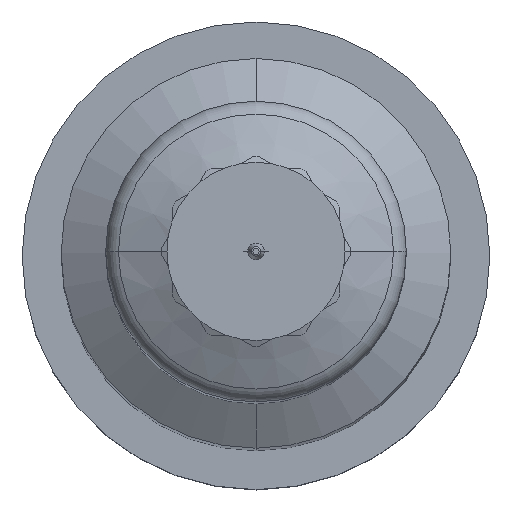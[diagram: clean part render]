
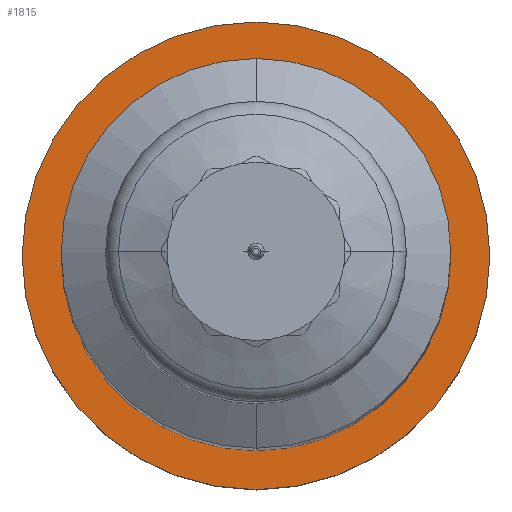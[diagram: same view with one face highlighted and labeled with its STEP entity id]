
A CAD part, top view. The second image highlights one B-rep face of the part: STEP entity #1815.
In plain terms, the highlighted planar face has unit normal (0, 0, 1).
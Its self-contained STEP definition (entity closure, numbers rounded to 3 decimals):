
#141 = CARTESIAN_POINT ( 'NONE',  ( 0., 0., 15. ) ) ;
#302 = PLANE ( 'NONE',  #18536 ) ;
#400 = DIRECTION ( 'NONE',  ( 0., 0., 1. ) ) ;
#1815 = ADVANCED_FACE ( 'NONE', ( #17081, #12040 ), #302, .T. ) ;
#4112 = VERTEX_POINT ( 'NONE', #16536 ) ;
#4760 = DIRECTION ( 'NONE',  ( 0., 0., 1. ) ) ;
#5564 = ORIENTED_EDGE ( 'NONE', *, *, #22210, .F. ) ;
#5617 = VERTEX_POINT ( 'NONE', #26948 ) ;
#6217 = AXIS2_PLACEMENT_3D ( 'NONE', #11236, #4760, #6894 ) ;
#6894 = DIRECTION ( 'NONE',  ( -1., 0., 0. ) ) ;
#7031 = DIRECTION ( 'NONE',  ( 1., 0., 0. ) ) ;
#7111 = DIRECTION ( 'NONE',  ( 0., 0., -1. ) ) ;
#7515 = EDGE_CURVE ( 'NONE', #4112, #5617, #11709, .T. ) ;
#8265 = CIRCLE ( 'NONE', #23587, 21. ) ;
#8787 = CARTESIAN_POINT ( 'NONE',  ( 0., -17.5, 15. ) ) ;
#9478 = CARTESIAN_POINT ( 'NONE',  ( 0., 0., 15. ) ) ;
#9501 = AXIS2_PLACEMENT_3D ( 'NONE', #141, #10997, #15221 ) ;
#10117 = ORIENTED_EDGE ( 'NONE', *, *, #27983, .F. ) ;
#10171 = EDGE_CURVE ( 'NONE', #21440, #15103, #21822, .T. ) ;
#10997 = DIRECTION ( 'NONE',  ( 0., 0., 1. ) ) ;
#11236 = CARTESIAN_POINT ( 'NONE',  ( 0., 0., 15. ) ) ;
#11468 = ORIENTED_EDGE ( 'NONE', *, *, #7515, .F. ) ;
#11582 = EDGE_LOOP ( 'NONE', ( #5564, #11468 ) ) ;
#11709 = CIRCLE ( 'NONE', #13688, 21. ) ;
#12040 = FACE_OUTER_BOUND ( 'NONE', #11582, .T. ) ;
#13688 = AXIS2_PLACEMENT_3D ( 'NONE', #15646, #18041, #16013 ) ;
#15103 = VERTEX_POINT ( 'NONE', #8787 ) ;
#15221 = DIRECTION ( 'NONE',  ( -1., 0., 0. ) ) ;
#15410 = CARTESIAN_POINT ( 'NONE',  ( 0., 17.5, 15. ) ) ;
#15646 = CARTESIAN_POINT ( 'NONE',  ( 0., 0., 15. ) ) ;
#16013 = DIRECTION ( 'NONE',  ( 1., 0., 0. ) ) ;
#16536 = CARTESIAN_POINT ( 'NONE',  ( -21., 0., 15. ) ) ;
#17081 = FACE_BOUND ( 'NONE', #18574, .T. ) ;
#17865 = DIRECTION ( 'NONE',  ( -1., 0., 0. ) ) ;
#18041 = DIRECTION ( 'NONE',  ( 0., 0., -1. ) ) ;
#18145 = ORIENTED_EDGE ( 'NONE', *, *, #10171, .F. ) ;
#18536 = AXIS2_PLACEMENT_3D ( 'NONE', #26235, #400, #17865 ) ;
#18574 = EDGE_LOOP ( 'NONE', ( #18145, #10117 ) ) ;
#20965 = CIRCLE ( 'NONE', #9501, 17.5 ) ;
#21440 = VERTEX_POINT ( 'NONE', #15410 ) ;
#21822 = CIRCLE ( 'NONE', #6217, 17.5 ) ;
#22210 = EDGE_CURVE ( 'NONE', #5617, #4112, #8265, .T. ) ;
#23587 = AXIS2_PLACEMENT_3D ( 'NONE', #9478, #7111, #7031 ) ;
#26235 = CARTESIAN_POINT ( 'NONE',  ( 13.5, 0., 15. ) ) ;
#26948 = CARTESIAN_POINT ( 'NONE',  ( 21., 0., 15. ) ) ;
#27983 = EDGE_CURVE ( 'NONE', #15103, #21440, #20965, .T. ) ;
